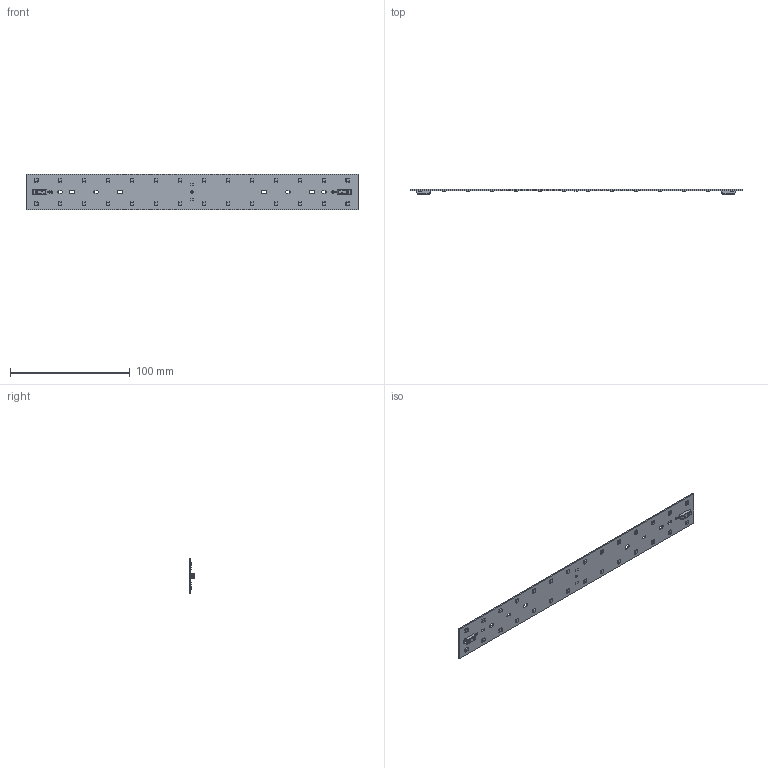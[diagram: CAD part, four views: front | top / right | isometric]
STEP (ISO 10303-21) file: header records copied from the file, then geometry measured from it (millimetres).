
FILE_DESCRIPTION(/* description */ ('Unknown'),/* implementation_level */ '2;1');
FILE_NAME(/* name */ 'LinLED 277x30mm 1000lm 2C 21V DIANA-40 CE-30 sh-000 2026-03-12',/* time_stamp */ '2026-03-12T08:20:30+01:00',/* author */ ('Unknown'),/* organization */ ('Unknown'),/* preprocessor_version */ 'ST-DEVELOPER v18.102',/* originating_system */ 'Solid Edge',/* authorisation */ 'Unknown');
FILE_SCHEMA (('AUTOMOTIVE_DESIGN {1 0 10303 214 3 1 1}'));
Products named in the file (1): LinLED 277x30mm 1000lm 2C 21V DIANA-40 CE-30 sh-000 2026-03-12
Bounding box: 277 x 4.45 x 30 mm (x, y, z)
Volume: 8662.2 mm3; surface area: 18400.6 mm2
Topology: 33 solids, 33 shells, 2457 faces, 8697 edges, 6340 vertices
Faces by surface type: plane 1810, cylinder 491, torus 64, cone 50, bspline 26, sphere 16
Full cylindrical faces by diameter (mm): 2.1 x1
Entity records: 111923 total; most frequent: CARTESIAN_POINT 27496, ORIENTED_EDGE 17344, DIRECTION 11354, EDGE_CURVE 8672, VERTEX_POINT 6334, LINE 4870, VECTOR 4870, AXIS2_PLACEMENT_3D 3242
